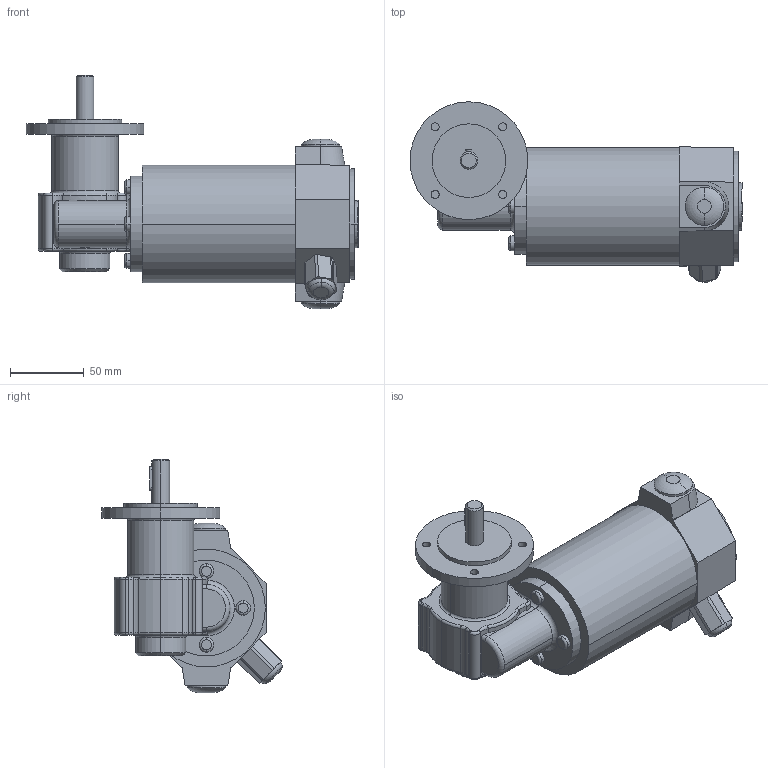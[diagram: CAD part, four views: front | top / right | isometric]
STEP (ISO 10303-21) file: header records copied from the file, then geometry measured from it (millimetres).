
FILE_DESCRIPTION(('OneSpaceDesigner STEP Export'),'2;1');
FILE_NAME('EPG12_GF129-10.stp','2008-07-02T15:28:03',(''),(''),'OneSpace Designer STEP processor (Jan. 2003) for AP214(CD)(Solid Model)','OneSpace Designer 12.01D 09-Jul-2004 (C) CoCreate Software GmbH','');
FILE_SCHEMA(('AUTOMOTIVE_DESIGN_CC2 {1 2 10303 214 -1 1 5 1}'));
Length unit declared in the file: millimetre
Products named in the file (2): EPG12_GF129-10
Assembly tree (1 placements, depth 2):
  EPG12_GF129-10
    EPG12_GF129-10
Bounding box: 225.5 x 122.39 x 158.5 mm (x, y, z)
Volume: 1077389.1 mm3; surface area: 85940.2 mm2
Topology: 1 solids, 1 shells, 217 faces, 523 edges, 325 vertices
Faces by surface type: cylinder 87, torus 74, plane 50, cone 4, bspline 2
Entity records: 8791 total; most frequent: CARTESIAN_POINT 4200, ORIENTED_EDGE 1046, DIRECTION 871, EDGE_CURVE 523, AXIS2_PLACEMENT_3D 357, VERTEX_POINT 325, EDGE_LOOP 242, CIRCLE 217
